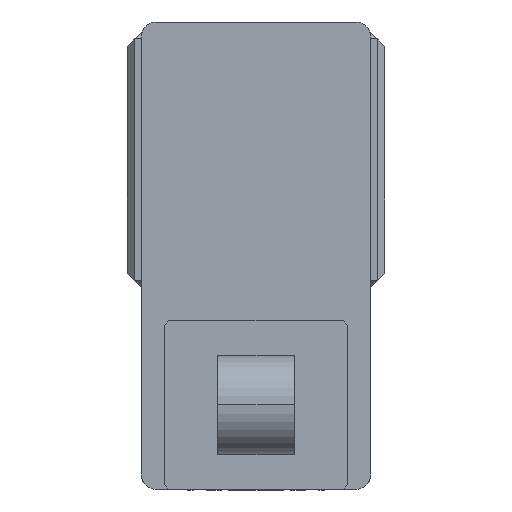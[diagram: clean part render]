
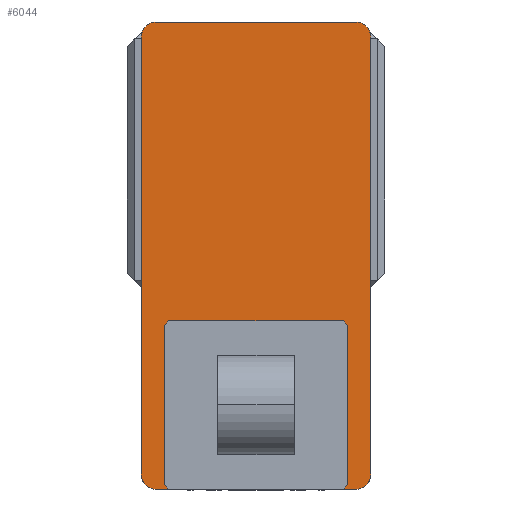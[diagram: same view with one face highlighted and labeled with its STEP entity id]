
A CAD part, left-side view. The second image highlights one B-rep face of the part: STEP entity #6044.
In plain terms, the highlighted planar face has unit normal (-1, 0, 0) as drawn and (0, 0, 1) by its records, which use the part's own axes.
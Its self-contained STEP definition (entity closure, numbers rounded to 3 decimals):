
#196 = FACE_OUTER_BOUND ( 'NONE', #5356, .T. ) ;
#437 = PLANE ( 'NONE',  #3566 ) ;
#477 = DIRECTION ( 'NONE',  ( 1., 0., 0. ) ) ;
#527 = CIRCLE ( 'NONE', #9812, 10. ) ;
#786 = EDGE_CURVE ( 'NONE', #9166, #8531, #10803, .T. ) ;
#981 = VECTOR ( 'NONE', #3718, 1000. ) ;
#1073 = DIRECTION ( 'NONE',  ( 0., 0., 1. ) ) ;
#1359 = DIRECTION ( 'NONE',  ( 1., 0., 0. ) ) ;
#1644 = CARTESIAN_POINT ( 'NONE',  ( 65., -152.5, 105. ) ) ;
#1793 = CARTESIAN_POINT ( 'NONE',  ( -65., 152.5, 105. ) ) ;
#2325 = CARTESIAN_POINT ( 'NONE',  ( 65., -142.5, 105. ) ) ;
#2335 = DIRECTION ( 'NONE',  ( 0., 0., 1. ) ) ;
#2622 = VECTOR ( 'NONE', #8656, 1000. ) ;
#2738 = CARTESIAN_POINT ( 'NONE',  ( -65., 142.5, 105. ) ) ;
#2890 = LINE ( 'NONE', #4403, #2622 ) ;
#3042 = VERTEX_POINT ( 'NONE', #9086 ) ;
#3072 = CARTESIAN_POINT ( 'NONE',  ( -75., -142.5, 105. ) ) ;
#3446 = ORIENTED_EDGE ( 'NONE', *, *, #5153, .T. ) ;
#3566 = AXIS2_PLACEMENT_3D ( 'NONE', #4756, #5618, #477 ) ;
#3583 = DIRECTION ( 'NONE',  ( 1., 0., 0. ) ) ;
#3718 = DIRECTION ( 'NONE',  ( -1., 0., 0. ) ) ;
#3818 = DIRECTION ( 'NONE',  ( 1., 0., 0. ) ) ;
#3851 = DIRECTION ( 'NONE',  ( 0., 0., 1. ) ) ;
#3940 = VERTEX_POINT ( 'NONE', #9487 ) ;
#4197 = ORIENTED_EDGE ( 'NONE', *, *, #6465, .T. ) ;
#4360 = CARTESIAN_POINT ( 'NONE',  ( -65., -152.5, 105. ) ) ;
#4403 = CARTESIAN_POINT ( 'NONE',  ( -75., 152.5, 105. ) ) ;
#4405 = DIRECTION ( 'NONE',  ( 0., 1., 0. ) ) ;
#4664 = VECTOR ( 'NONE', #1359, 1000. ) ;
#4722 = CIRCLE ( 'NONE', #7358, 10. ) ;
#4756 = CARTESIAN_POINT ( 'NONE',  ( 0., 0., 105. ) ) ;
#4757 = ORIENTED_EDGE ( 'NONE', *, *, #6738, .T. ) ;
#4918 = LINE ( 'NONE', #6491, #4664 ) ;
#5065 = CARTESIAN_POINT ( 'NONE',  ( 75., -142.5, 105. ) ) ;
#5153 = EDGE_CURVE ( 'NONE', #8531, #3042, #7692, .T. ) ;
#5356 = EDGE_LOOP ( 'NONE', ( #7726, #9888, #3446, #6489, #4197, #9213, #4757, #10907 ) ) ;
#5618 = DIRECTION ( 'NONE',  ( 0., 0., 1. ) ) ;
#6044 = ADVANCED_FACE ( 'NONE', ( #196 ), #437, .T. ) ;
#6203 = CARTESIAN_POINT ( 'NONE',  ( -65., -142.5, 105. ) ) ;
#6465 = EDGE_CURVE ( 'NONE', #3940, #8034, #7541, .T. ) ;
#6489 = ORIENTED_EDGE ( 'NONE', *, *, #7120, .T. ) ;
#6491 = CARTESIAN_POINT ( 'NONE',  ( -75., -152.5, 105. ) ) ;
#6738 = EDGE_CURVE ( 'NONE', #8286, #9336, #2890, .T. ) ;
#7076 = DIRECTION ( 'NONE',  ( 1., 0., 0. ) ) ;
#7120 = EDGE_CURVE ( 'NONE', #3042, #3940, #527, .T. ) ;
#7358 = AXIS2_PLACEMENT_3D ( 'NONE', #2738, #8701, #3583 ) ;
#7428 = CARTESIAN_POINT ( 'NONE',  ( 65., 142.5, 105. ) ) ;
#7541 = LINE ( 'NONE', #8828, #981 ) ;
#7692 = LINE ( 'NONE', #10377, #9991 ) ;
#7726 = ORIENTED_EDGE ( 'NONE', *, *, #8332, .T. ) ;
#8034 = VERTEX_POINT ( 'NONE', #1793 ) ;
#8286 = VERTEX_POINT ( 'NONE', #8981 ) ;
#8307 = DIRECTION ( 'NONE',  ( 1., 0., 0. ) ) ;
#8332 = EDGE_CURVE ( 'NONE', #8668, #9166, #4918, .T. ) ;
#8531 = VERTEX_POINT ( 'NONE', #5065 ) ;
#8656 = DIRECTION ( 'NONE',  ( 0., -1., 0. ) ) ;
#8668 = VERTEX_POINT ( 'NONE', #4360 ) ;
#8701 = DIRECTION ( 'NONE',  ( 0., 0., 1. ) ) ;
#8716 = EDGE_CURVE ( 'NONE', #8034, #8286, #4722, .T. ) ;
#8828 = CARTESIAN_POINT ( 'NONE',  ( -75., 152.5, 105. ) ) ;
#8981 = CARTESIAN_POINT ( 'NONE',  ( -75., 142.5, 105. ) ) ;
#9086 = CARTESIAN_POINT ( 'NONE',  ( 75., 142.5, 105. ) ) ;
#9166 = VERTEX_POINT ( 'NONE', #1644 ) ;
#9213 = ORIENTED_EDGE ( 'NONE', *, *, #8716, .T. ) ;
#9336 = VERTEX_POINT ( 'NONE', #3072 ) ;
#9371 = CIRCLE ( 'NONE', #10135, 10. ) ;
#9487 = CARTESIAN_POINT ( 'NONE',  ( 65., 152.5, 105. ) ) ;
#9686 = AXIS2_PLACEMENT_3D ( 'NONE', #2325, #3851, #3818 ) ;
#9812 = AXIS2_PLACEMENT_3D ( 'NONE', #7428, #2335, #8307 ) ;
#9888 = ORIENTED_EDGE ( 'NONE', *, *, #786, .T. ) ;
#9991 = VECTOR ( 'NONE', #4405, 1000. ) ;
#10135 = AXIS2_PLACEMENT_3D ( 'NONE', #6203, #1073, #7076 ) ;
#10377 = CARTESIAN_POINT ( 'NONE',  ( 75., 152.5, 105. ) ) ;
#10397 = EDGE_CURVE ( 'NONE', #9336, #8668, #9371, .T. ) ;
#10803 = CIRCLE ( 'NONE', #9686, 10. ) ;
#10907 = ORIENTED_EDGE ( 'NONE', *, *, #10397, .T. ) ;
